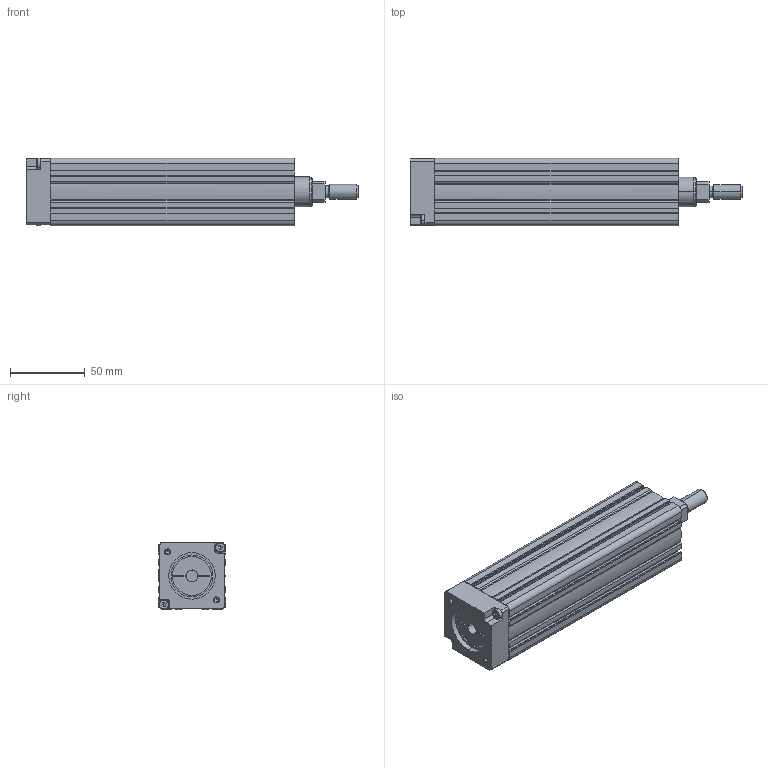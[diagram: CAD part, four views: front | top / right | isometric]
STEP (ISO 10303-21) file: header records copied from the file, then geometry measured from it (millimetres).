
FILE_DESCRIPTION (( 'STEP AP203' ), '1' );
FILE_NAME ('RD-45T-50.STEP', '2010-06-14T17:38:04', ( 'render' ), ( '' ), 'SwSTEP 2.0', 'SolidWorks 2009', '' );
FILE_SCHEMA (( 'CONFIG_CONTROL_DESIGN' ));
Length unit declared in the file: millimetre
Products named in the file (1): RD-45T-50
Bounding box: 221.5 x 45 x 45.1 mm (x, y, z)
Volume: 323315.8 mm3; surface area: 67290.4 mm2
Topology: 2 solids, 2 shells, 345 faces, 888 edges, 562 vertices
Faces by surface type: plane 200, cylinder 101, cone 40, bspline 4
Entity records: 10565 total; most frequent: CARTESIAN_POINT 1973, DIRECTION 1800, ORIENTED_EDGE 1760, EDGE_CURVE 880, LINE 618, VECTOR 618, AXIS2_PLACEMENT_3D 591, VERTEX_POINT 562
